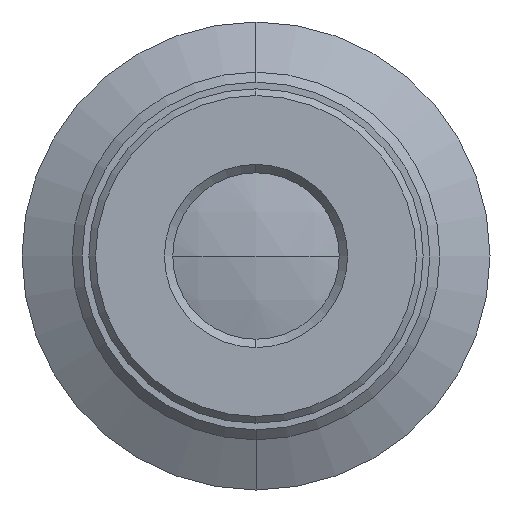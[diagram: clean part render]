
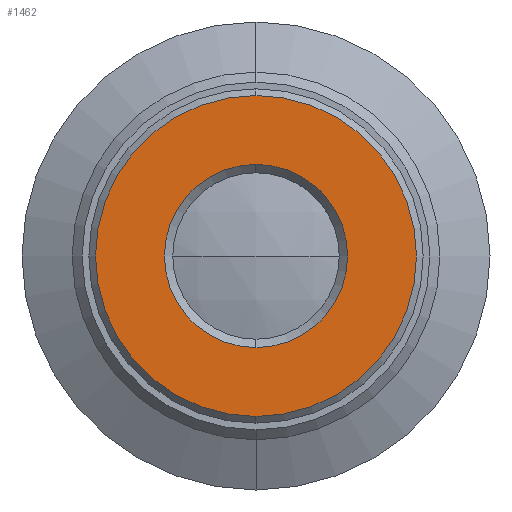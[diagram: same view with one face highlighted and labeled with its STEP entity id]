
A CAD part, left-side view. The second image highlights one B-rep face of the part: STEP entity #1462.
In plain terms, the highlighted planar face has unit normal (-1, 0, 0).
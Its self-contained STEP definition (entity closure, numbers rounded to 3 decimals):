
#2 = CARTESIAN_POINT ( 'NONE',  ( -20.655, 0., -2.74 ) ) ;
#125 = VERTEX_POINT ( 'NONE', #1854 ) ;
#149 = DIRECTION ( 'NONE',  ( 0., 0., -1. ) ) ;
#181 = FACE_BOUND ( 'NONE', #1127, .T. ) ;
#225 = DIRECTION ( 'NONE',  ( 1., 0., 0. ) ) ;
#228 = ORIENTED_EDGE ( 'NONE', *, *, #515, .T. ) ;
#257 = CIRCLE ( 'NONE', #816, 4.8 ) ;
#267 = DIRECTION ( 'NONE',  ( 0., 0., -1. ) ) ;
#389 = ORIENTED_EDGE ( 'NONE', *, *, #949, .T. ) ;
#406 = CARTESIAN_POINT ( 'NONE',  ( -20.655, 0., 4.8 ) ) ;
#426 = DIRECTION ( 'NONE',  ( 0., 0., 1. ) ) ;
#460 = CIRCLE ( 'NONE', #1253, 2.74 ) ;
#462 = CARTESIAN_POINT ( 'NONE',  ( -20.655, 0., 0. ) ) ;
#515 = EDGE_CURVE ( 'NONE', #1645, #125, #1406, .T. ) ;
#549 = CARTESIAN_POINT ( 'NONE',  ( -20.655, 2.74, 0. ) ) ;
#715 = AXIS2_PLACEMENT_3D ( 'NONE', #1084, #225, #1674 ) ;
#816 = AXIS2_PLACEMENT_3D ( 'NONE', #1833, #982, #267 ) ;
#949 = EDGE_CURVE ( 'NONE', #125, #1645, #460, .T. ) ;
#982 = DIRECTION ( 'NONE',  ( 1., 0., 0. ) ) ;
#984 = CARTESIAN_POINT ( 'NONE',  ( -20.655, 0., 0. ) ) ;
#1084 = CARTESIAN_POINT ( 'NONE',  ( -20.655, 0., 0. ) ) ;
#1127 = EDGE_LOOP ( 'NONE', ( #389, #228 ) ) ;
#1137 = FACE_OUTER_BOUND ( 'NONE', #1375, .T. ) ;
#1175 = DIRECTION ( 'NONE',  ( 1., 0., 0. ) ) ;
#1204 = EDGE_CURVE ( 'NONE', #1280, #1502, #1657, .T. ) ;
#1253 = AXIS2_PLACEMENT_3D ( 'NONE', #984, #1175, #1696 ) ;
#1256 = CARTESIAN_POINT ( 'NONE',  ( -20.655, 0., -4.8 ) ) ;
#1257 = EDGE_CURVE ( 'NONE', #1502, #1280, #257, .T. ) ;
#1261 = PLANE ( 'NONE',  #1716 ) ;
#1264 = DIRECTION ( 'NONE',  ( -1., 0., 0. ) ) ;
#1280 = VERTEX_POINT ( 'NONE', #406 ) ;
#1360 = AXIS2_PLACEMENT_3D ( 'NONE', #462, #1467, #149 ) ;
#1375 = EDGE_LOOP ( 'NONE', ( #1417, #1489 ) ) ;
#1406 = CIRCLE ( 'NONE', #1360, 2.74 ) ;
#1417 = ORIENTED_EDGE ( 'NONE', *, *, #1257, .F. ) ;
#1462 = ADVANCED_FACE ( 'NONE', ( #181, #1137 ), #1261, .T. ) ;
#1467 = DIRECTION ( 'NONE',  ( 1., 0., 0. ) ) ;
#1489 = ORIENTED_EDGE ( 'NONE', *, *, #1204, .F. ) ;
#1502 = VERTEX_POINT ( 'NONE', #1256 ) ;
#1645 = VERTEX_POINT ( 'NONE', #2 ) ;
#1657 = CIRCLE ( 'NONE', #715, 4.8 ) ;
#1674 = DIRECTION ( 'NONE',  ( 0., 0., -1. ) ) ;
#1696 = DIRECTION ( 'NONE',  ( 0., 0., -1. ) ) ;
#1716 = AXIS2_PLACEMENT_3D ( 'NONE', #549, #1264, #426 ) ;
#1833 = CARTESIAN_POINT ( 'NONE',  ( -20.655, 0., 0. ) ) ;
#1854 = CARTESIAN_POINT ( 'NONE',  ( -20.655, 0., 2.74 ) ) ;
